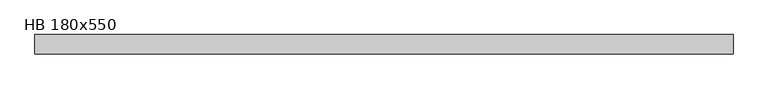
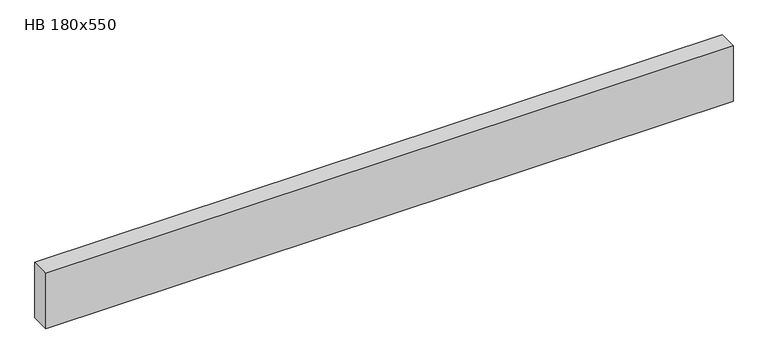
"""IFC4 building model written with IfcOpenShell, lengths in millimetres: beam geometry, NLRS_28_SF_LIB_balk hout gelamineerd_generiek_ISR : HB 180x550."""

from ifc_helpers import new_model, si_unit, frame, origin, place, context, project, spatial, polyline, outline, extrude, source, transform, mapped, element, save


def hb_180x550_eef674f7(model_context):
    return source(origin(), model_context, "Body", "SweptSolid", [
        extrude(outline(polyline([(3217.5748858, 90.0), (3217.5748858, -90.0), (-3220.5950822, -90.0), (-3220.5950822, 90.0), (3217.5748858, 90.0)])), frame((0.0, 0.0, -275.0), z_axis=(0.0, 0.0, 1.0), x_axis=(1.0, 0.0, 0.0)), (0.0, 0.0, 1.0), 550.0),
    ])


if __name__ == "__main__":
    model = new_model("IFC4")
    model_context = context("Model", 3, world=origin())
    ifc_project = project(units=[si_unit("LENGTHUNIT", "METRE", prefix="MILLI")], contexts=[model_context])
    site = spatial("IfcSite", under=ifc_project)
    building = spatial("IfcBuilding", under=site)
    placement = place(None, origin())
    hb_180x550_shape = hb_180x550_eef674f7(model_context)
    element("IfcBeam", 1, ObjectType="NLRS_28_SF_LIB_balk hout gelamineerd_generiek_ISR : HB 180x550", at=placement, inside=building, context=model_context, shape_type="MappedRepresentation", body=[
        mapped(hb_180x550_shape, transform((0.0, 0.0, 0.0), x_axis=(1.0, 0.0, 0.0), y_axis=(0.0, 1.0, 0.0), z_axis=(0.0, 0.0, 1.0))),
    ])
    save(model, "model.ifc")
